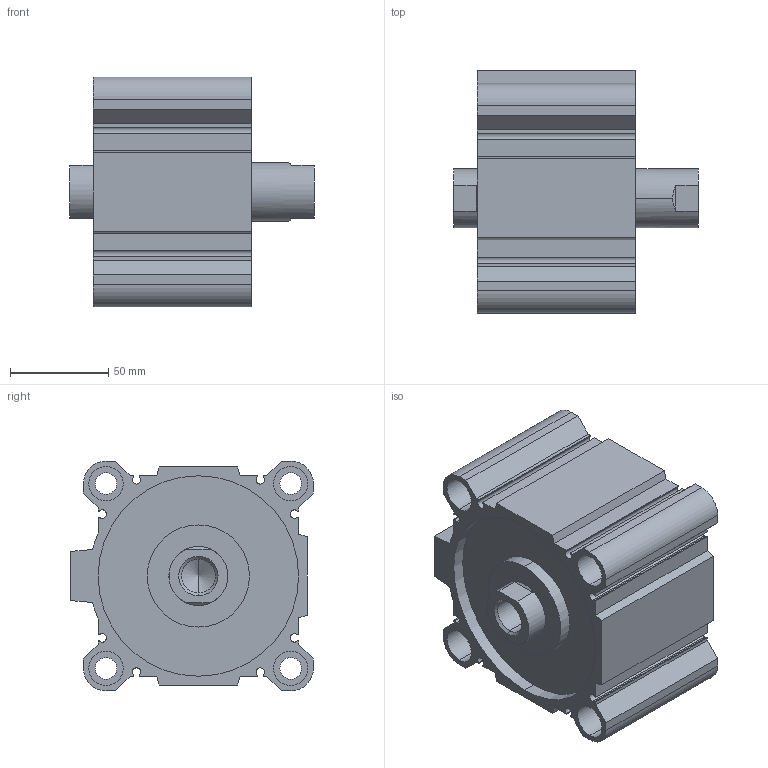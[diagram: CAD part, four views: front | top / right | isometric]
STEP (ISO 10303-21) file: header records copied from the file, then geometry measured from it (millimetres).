
FILE_DESCRIPTION (( 'STEP AP203' ), '1' );
FILE_NAME ('CCMB100-20F-P.STEP', '2020-08-05T11:53:11', ( '' ), ( '' ), 'SwSTEP 2.0', 'SolidWorks 2019', '' );
FILE_SCHEMA (( 'CONFIG_CONTROL_DESIGN' ));
Length unit declared in the file: millimetre
Products named in the file (1): CCMB100-20F-P
Bounding box: 124.5 x 123.5 x 117 mm (x, y, z)
Volume: 719267.3 mm3; surface area: 163724.2 mm2
Topology: 2 solids, 2 shells, 178 faces, 456 edges, 298 vertices
Faces by surface type: plane 90, cylinder 76, cone 12
Entity records: 5491 total; most frequent: DIRECTION 962, CARTESIAN_POINT 953, ORIENTED_EDGE 904, EDGE_CURVE 452, AXIS2_PLACEMENT_3D 339, VERTEX_POINT 298, LINE 284, VECTOR 284
